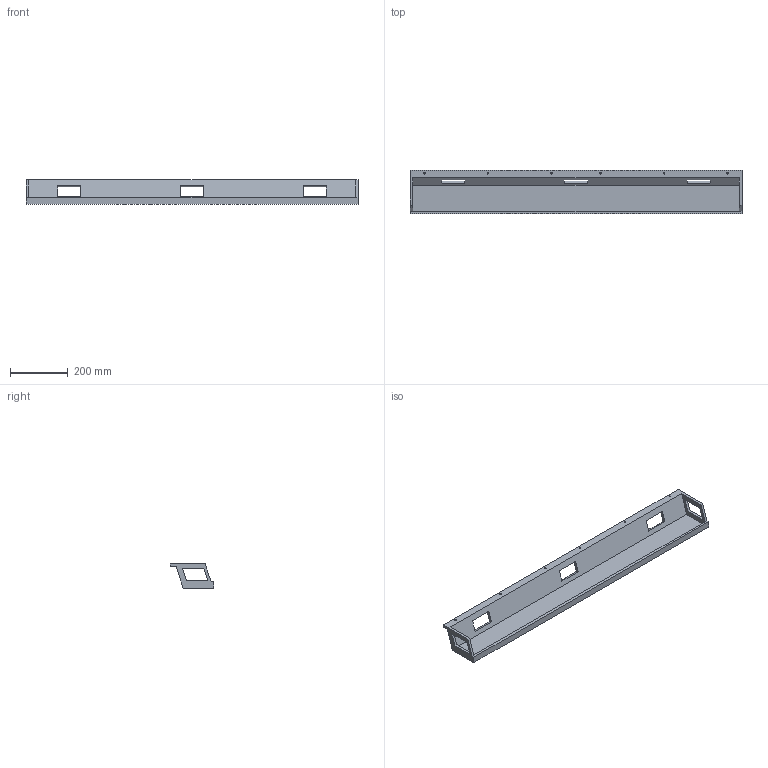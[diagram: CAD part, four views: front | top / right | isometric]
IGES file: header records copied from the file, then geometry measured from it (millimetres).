
Start section: Data from Parasolid IGES Translator 20.0.26, Copyright(c) 2006 Siemens P LM Software. All Rights Reserved.
Global section: file name: 9309811.igs; native system: By Siemens PLM Incorporated; preprocessor: XPlus GENERIC/IGES 20.0.26; author: Noname; organization: Noname; date: 20211203.152224; units: millimetre
Bounding box: 1150 x 150 x 85 mm (x, y, z)
Surface area: 536186.9 mm2 (no closed solid volume)
Topology: 0 solids, 0 shells, 42 faces, 236 edges, 224 vertices
Faces by surface type: extrusion 36, revolution 6
